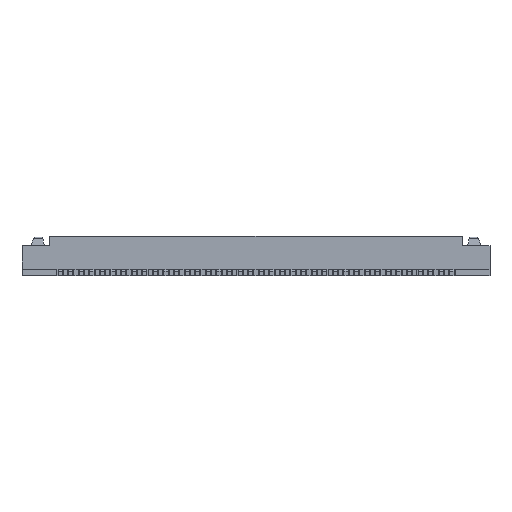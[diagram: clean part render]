
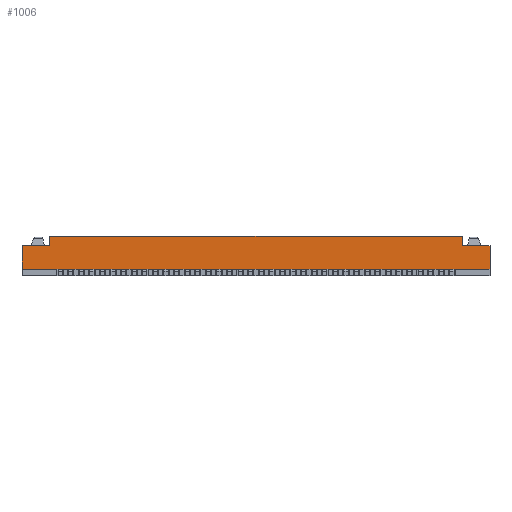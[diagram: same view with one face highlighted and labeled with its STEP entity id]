
A CAD part, front view. The second image highlights one B-rep face of the part: STEP entity #1006.
In plain terms, the highlighted planar face has unit normal (0, -1, 0).
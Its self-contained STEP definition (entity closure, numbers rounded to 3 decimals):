
#399=CARTESIAN_POINT('Vertex',(-9.75,-2.4,1.42)) ;
#402=CARTESIAN_POINT('Line Origine',(-9.75,-2.4,1.635)) ;
#406=CARTESIAN_POINT('Vertex',(-9.75,-2.4,1.85)) ;
#944=CARTESIAN_POINT('Axis2P3D Location',(0.,-2.4,0.3)) ;
#949=CARTESIAN_POINT('Line Origine',(-10.4,-2.4,1.42)) ;
#953=CARTESIAN_POINT('Vertex',(-11.05,-2.4,1.42)) ;
#956=CARTESIAN_POINT('Line Origine',(-11.05,-2.4,0.86)) ;
#960=CARTESIAN_POINT('Vertex',(-11.05,-2.4,0.3)) ;
#963=CARTESIAN_POINT('Line Origine',(0.,-2.4,0.3)) ;
#967=CARTESIAN_POINT('Vertex',(11.05,-2.4,0.3)) ;
#970=CARTESIAN_POINT('Line Origine',(11.05,-2.4,0.86)) ;
#974=CARTESIAN_POINT('Vertex',(11.05,-2.4,1.42)) ;
#977=CARTESIAN_POINT('Line Origine',(10.4,-2.4,1.42)) ;
#981=CARTESIAN_POINT('Vertex',(9.75,-2.4,1.42)) ;
#984=CARTESIAN_POINT('Line Origine',(9.75,-2.4,1.635)) ;
#988=CARTESIAN_POINT('Vertex',(9.75,-2.4,1.85)) ;
#991=CARTESIAN_POINT('Line Origine',(0.,-2.4,1.85)) ;
#403=DIRECTION('Vector Direction',(0.,0.,-1.)) ;
#945=DIRECTION('Axis2P3D Direction',(0.,1.,0.)) ;
#946=DIRECTION('Axis2P3D XDirection',(0.,0.,1.)) ;
#950=DIRECTION('Vector Direction',(1.,0.,0.)) ;
#957=DIRECTION('Vector Direction',(0.,0.,1.)) ;
#964=DIRECTION('Vector Direction',(1.,0.,0.)) ;
#971=DIRECTION('Vector Direction',(0.,0.,1.)) ;
#978=DIRECTION('Vector Direction',(-1.,0.,0.)) ;
#985=DIRECTION('Vector Direction',(0.,0.,-1.)) ;
#992=DIRECTION('Vector Direction',(1.,0.,0.)) ;
#947=AXIS2_PLACEMENT_3D('Plane Axis2P3D',#944,#945,#946) ;
#997=ORIENTED_EDGE('',*,*,#408,.T.) ;
#998=ORIENTED_EDGE('',*,*,#955,.F.) ;
#999=ORIENTED_EDGE('',*,*,#962,.T.) ;
#1000=ORIENTED_EDGE('',*,*,#969,.T.) ;
#1001=ORIENTED_EDGE('',*,*,#976,.F.) ;
#1002=ORIENTED_EDGE('',*,*,#983,.T.) ;
#1003=ORIENTED_EDGE('',*,*,#990,.F.) ;
#1004=ORIENTED_EDGE('',*,*,#995,.F.) ;
#404=VECTOR('Line Direction',#403,1.) ;
#951=VECTOR('Line Direction',#950,1.) ;
#958=VECTOR('Line Direction',#957,1.) ;
#965=VECTOR('Line Direction',#964,1.) ;
#972=VECTOR('Line Direction',#971,1.) ;
#979=VECTOR('Line Direction',#978,1.) ;
#986=VECTOR('Line Direction',#985,1.) ;
#993=VECTOR('Line Direction',#992,1.) ;
#1006=ADVANCED_FACE('\X2\96F64EF651E04F554F53\X0\',(#1005),#948,.F.) ;
#408=EDGE_CURVE('',#407,#400,#405,.T.) ;
#955=EDGE_CURVE('',#954,#400,#952,.T.) ;
#962=EDGE_CURVE('',#954,#961,#959,.F.) ;
#969=EDGE_CURVE('',#961,#968,#966,.T.) ;
#976=EDGE_CURVE('',#975,#968,#973,.F.) ;
#983=EDGE_CURVE('',#975,#982,#980,.T.) ;
#990=EDGE_CURVE('',#989,#982,#987,.T.) ;
#995=EDGE_CURVE('',#407,#989,#994,.T.) ;
#996=EDGE_LOOP('',(#997,#998,#999,#1000,#1001,#1002,#1003,#1004)) ;
#1005=FACE_OUTER_BOUND('',#996,.T.) ;
#405=LINE('Line',#402,#404) ;
#952=LINE('Line',#949,#951) ;
#959=LINE('Line',#956,#958) ;
#966=LINE('Line',#963,#965) ;
#973=LINE('Line',#970,#972) ;
#980=LINE('Line',#977,#979) ;
#987=LINE('Line',#984,#986) ;
#994=LINE('Line',#991,#993) ;
#948=PLANE('Plane',#947) ;
#400=VERTEX_POINT('',#399) ;
#407=VERTEX_POINT('',#406) ;
#954=VERTEX_POINT('',#953) ;
#961=VERTEX_POINT('',#960) ;
#968=VERTEX_POINT('',#967) ;
#975=VERTEX_POINT('',#974) ;
#982=VERTEX_POINT('',#981) ;
#989=VERTEX_POINT('',#988) ;
